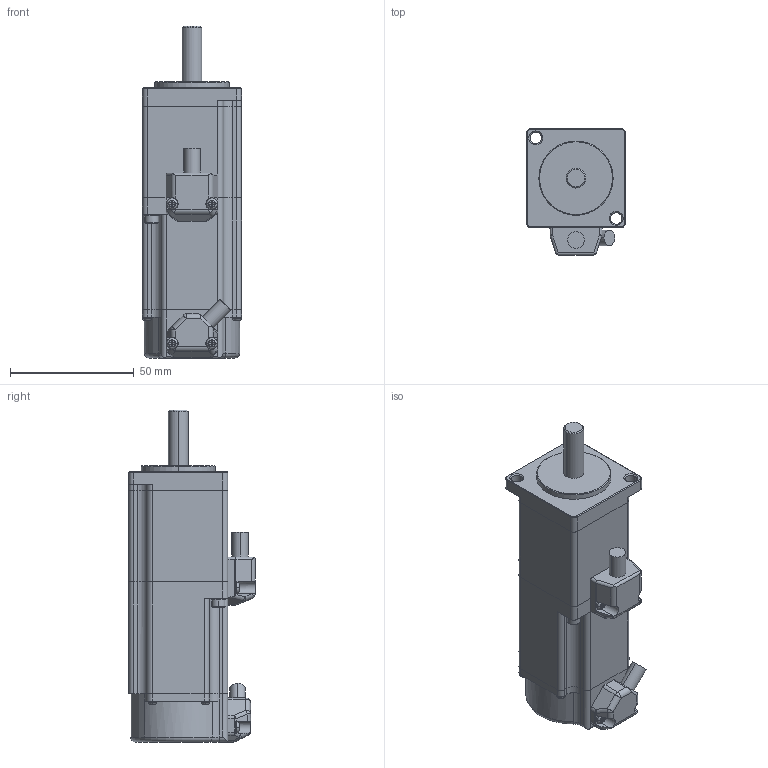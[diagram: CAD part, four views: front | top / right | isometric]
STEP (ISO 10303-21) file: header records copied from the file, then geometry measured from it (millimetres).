
FILE_DESCRIPTION(('Creo Elements/Direct Modeling STEP Export'),'2;1');
FILE_NAME('TS4603_BK有.stp','2016-12-22T16:23:34',(''),(''),'Creo Elements/Direct Modeling STEP processor for AP214 (Solid Model)','Creo Elements/Direct Modeling 17.0F 20-Aug-2012 (C) Parametric Technology GmbH','');
FILE_SCHEMA(('AUTOMOTIVE_DESIGN { 1 0 10303 214 1 1 1 1 }'));
Length unit declared in the file: millimetre
Products named in the file (2): TS4603N6000; ﾓｰﾀ
Assembly tree (1 placements, depth 2):
  ﾓｰﾀ
    TS4603N6000
Bounding box: 40 x 51.1 x 134.1 mm (x, y, z)
Volume: 163517.7 mm3; surface area: 21929.4 mm2
Topology: 1 solids, 1 shells, 562 faces, 1312 edges, 747 vertices
Faces by surface type: plane 265, cylinder 197, cone 50, sphere 31, torus 19
Entity records: 16150 total; most frequent: CARTESIAN_POINT 4075, ORIENTED_EDGE 2590, DIRECTION 2514, EDGE_CURVE 1295, AXIS2_PLACEMENT_3D 991, VERTEX_POINT 747, EDGE_LOOP 582, FACE_OUTER_BOUND 562
